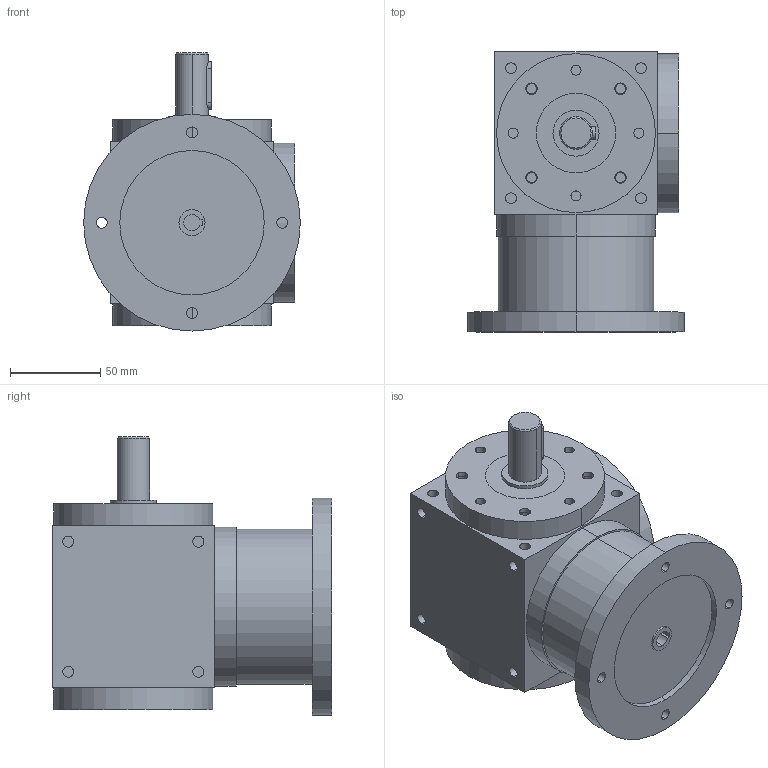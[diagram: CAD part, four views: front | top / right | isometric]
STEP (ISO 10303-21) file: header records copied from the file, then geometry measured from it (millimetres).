
FILE_DESCRIPTION (( 'STEP AP203' ), '1' );
FILE_NAME ('HDF-09-1-B.step', '2018-07-12T03:49:44', ( 'IT Division' ), ( 'IT' ), 'SwSTEP 2.0', 'SolidWorks 2016', '' );
FILE_SCHEMA (( 'CONFIG_CONTROL_DESIGN' ));
Length unit declared in the file: millimetre
Products named in the file (1): HDF-09-1-B
Bounding box: 120 x 155 x 154 mm (x, y, z)
Volume: 1371935.6 mm3; surface area: 135478.4 mm2
Topology: 5 solids, 5 shells, 185 faces, 377 edges, 252 vertices
Faces by surface type: cylinder 114, plane 69, cone 2
Entity records: 5124 total; most frequent: DIRECTION 977, CARTESIAN_POINT 882, ORIENTED_EDGE 754, AXIS2_PLACEMENT_3D 417, EDGE_CURVE 377, VERTEX_POINT 252, EDGE_LOOP 243, CIRCLE 231
